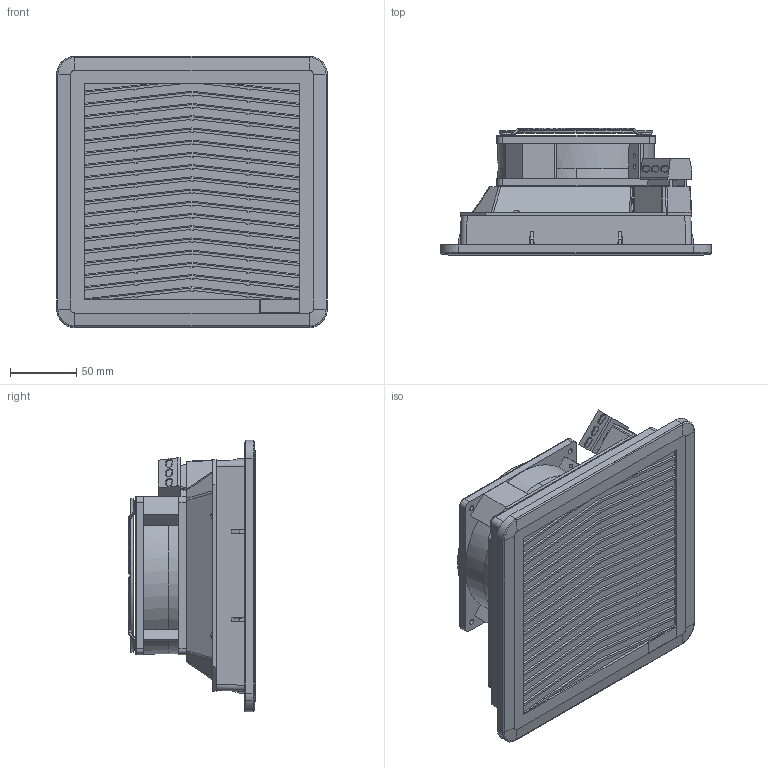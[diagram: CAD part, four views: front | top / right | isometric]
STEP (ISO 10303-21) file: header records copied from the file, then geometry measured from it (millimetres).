
FILE_DESCRIPTION (( 'STEP AP214' ), '1' );
FILE_NAME ('FF13PAxxxyN.STEP', '2023-10-04T07:10:50', ( '' ), ( '' ), 'SwSTEP 2.0', 'SolidWorks 2022', '' );
FILE_SCHEMA (( 'AUTOMOTIVE_DESIGN' ));
Length unit declared in the file: millimetre
Products named in the file (9): DT-00243DSI_Semplificata; DT-02424DSI_P13(x)FPF-ALL Semplificata; DT-01853DSI_Semplificata; DT-01842DSI_4715FS xxWB5A Semplificato; 040013_LK_980-01-3_morsettiera semplificata; DT-01131DSI_Assieme semplificato; FF13PAxxxyN; DT-04082DSI_mostrina semplificata; DT-00244DSI_Semplificato
Assembly tree (8 placements, depth 3):
  FF13PAxxxyN
    DT-02424DSI_P13(x)FPF-ALL Semplificata
    DT-01842DSI_4715FS xxWB5A Semplificato
    DT-01853DSI_Semplificata
    040013_LK_980-01-3_morsettiera semplificata
    DT-01131DSI_Assieme semplificato
      DT-00244DSI_Semplificato
      DT-00243DSI_Semplificata
      DT-04082DSI_mostrina semplificata
Bounding box: 203.81 x 95.77 x 204.22 mm (x, y, z)
Volume: 2158620.1 mm3; surface area: 345940.2 mm2
Topology: 7 solids, 7 shells, 735 faces, 2062 edges, 1355 vertices
Faces by surface type: plane 502, cylinder 109, bspline 83, cone 20, torus 11, sphere 10
Entity records: 34169 total; most frequent: CARTESIAN_POINT 14093, ORIENTED_EDGE 4124, DIRECTION 3282, EDGE_CURVE 2062, VECTOR 1558, LINE 1558, VERTEX_POINT 1355, AXIS2_PLACEMENT_3D 862
